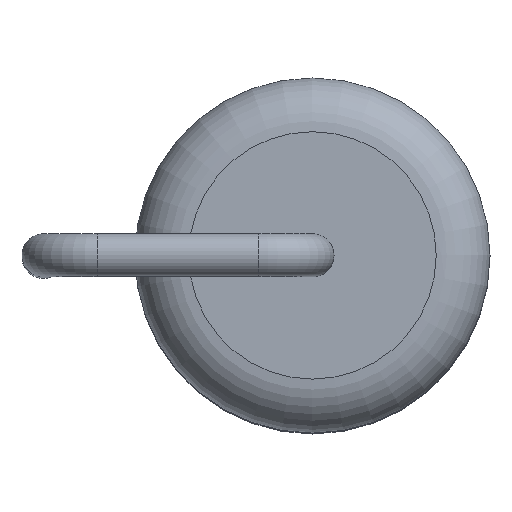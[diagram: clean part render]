
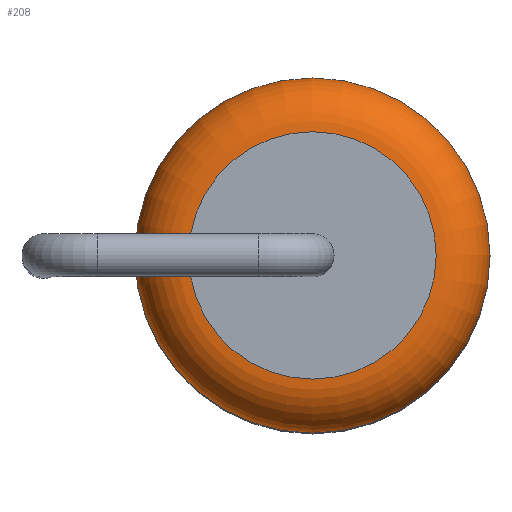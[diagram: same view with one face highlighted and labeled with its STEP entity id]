
A CAD part, top view. The second image highlights one B-rep face of the part: STEP entity #208.
In plain terms, the highlighted toroidal (fillet/blend) face has major radius 2.3 mm and minor radius 1 mm.
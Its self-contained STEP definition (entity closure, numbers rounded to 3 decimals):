
#208=ADVANCED_FACE('',(#377,#379),#381,.T.);
#377=FACE_OUTER_BOUND('',#378,.T.);
#378=EDGE_LOOP('',(#468));
#379=FACE_OUTER_BOUND('',#380,.T.);
#380=EDGE_LOOP('',(#469));
#381=TOROIDAL_SURFACE('',#382,2.3,1.);
#382=AXIS2_PLACEMENT_3D('',#383,#384,#385);
#383=CARTESIAN_POINT('',(0.,0.,5.5));
#384=DIRECTION('',(0.,0.,1.));
#385=DIRECTION('',(1.,0.,0.));
#468=ORIENTED_EDGE('',*,*,#493,.T.);
#469=ORIENTED_EDGE('',*,*,#494,.F.);
#493=EDGE_CURVE('',#521,#521,#522,.T.);
#494=EDGE_CURVE('',#523,#523,#524,.T.);
#521=VERTEX_POINT('',#587);
#522=CIRCLE('',#588,3.3);
#523=VERTEX_POINT('',#592);
#524=CIRCLE('',#593,2.3);
#587=CARTESIAN_POINT('',(3.3,0.,5.5));
#588=AXIS2_PLACEMENT_3D('',#589,#590,#591);
#589=CARTESIAN_POINT('',(0.,0.,5.5));
#590=DIRECTION('',(0.,0.,1.));
#591=DIRECTION('',(1.,0.,0.));
#592=CARTESIAN_POINT('',(2.3,0.,6.5));
#593=AXIS2_PLACEMENT_3D('',#594,#595,#596);
#594=CARTESIAN_POINT('',(0.,0.,6.5));
#595=DIRECTION('',(0.,0.,1.));
#596=DIRECTION('',(1.,0.,0.));
